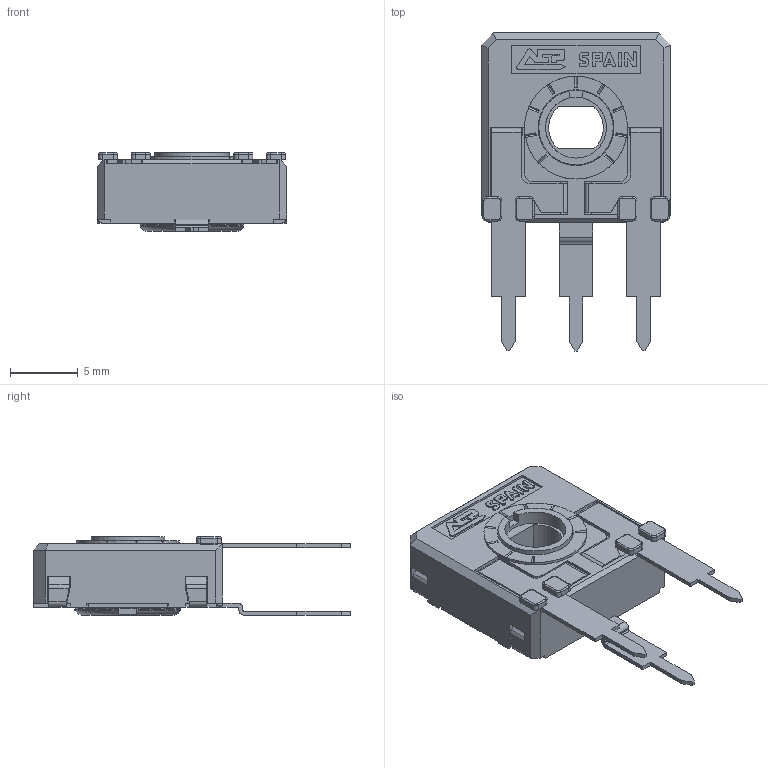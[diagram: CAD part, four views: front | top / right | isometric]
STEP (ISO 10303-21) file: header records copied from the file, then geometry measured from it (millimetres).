
FILE_DESCRIPTION(/* description */ (''),/* implementation_level */ '2;1');
FILE_NAME(/* name */ '\\SERVERACP\intercambio\Ignacio Santa Cecilia\Nueva WEB 2025\CA14 - CE14\CA14NHA5.stp',/* time_stamp */ '2025-06-06T09:35:10+02:00',/* author */ ('CEM'),/* organization */ (''),/* preprocessor_version */ 'ST-DEVELOPER v17',/* originating_system */ 'Autodesk Inventor 2018',/* authorisation */ '');
FILE_SCHEMA (('AUTOMOTIVE_DESIGN { 1 0 10303 214 3 1 1 }'));
Length unit declared in the file: millimetre
Products named in the file (1): CARCASA CA14 PGA
Bounding box: 14 x 23.5 x 5.8 mm (x, y, z)
Volume: 537 mm3; surface area: 1495.8 mm2
Topology: 1 solids, 1 shells, 666 faces, 1881 edges, 1211 vertices
Faces by surface type: plane 494, cylinder 135, torus 23, bspline 8, cone 6
Full cylindrical faces by diameter (mm): 4.5 x1, 5.5 x1, 5.6 x1, 5.752 x1, 6.8 x1, 7.6 x1
Entity records: 21747 total; most frequent: CARTESIAN_POINT 4056, ORIENTED_EDGE 3762, DIRECTION 3509, EDGE_CURVE 1881, LINE 1481, VECTOR 1481, VERTEX_POINT 1211, AXIS2_PLACEMENT_3D 1014
